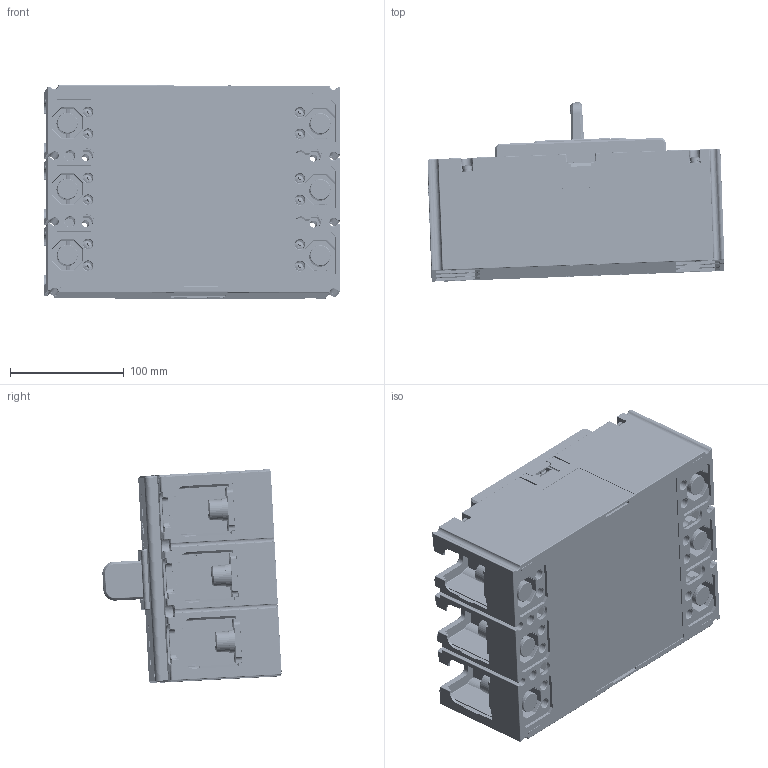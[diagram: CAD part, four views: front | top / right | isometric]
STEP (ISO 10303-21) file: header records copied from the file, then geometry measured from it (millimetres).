
FILE_DESCRIPTION((''),'2;1');
FILE_NAME('2253070100_ASM_ASM','2025-04-28T',('Administrator'),(''),'PRO/ENGINEER BY PARAMETRIC TECHNOLOGY CORPORATION, 2015440','PRO/ENGINEER BY PARAMETRIC TECHNOLOGY CORPORATION, 2015440','');
FILE_SCHEMA(('CONFIG_CONTROL_DESIGN'));
Products named in the file (48): JZ_5024045900_1; GB_T809-M5X16_1; 5024045900_ASM_1_ASM; 89400070R0_1; MANIFOLD_SOLID_BREP_104462; MANIFOLD_SOLID_BREP_104602; 8420023100_1_ASM; 5551107800_ASM_1_ASM; 5551150300_ASM_1_ASM; 8551044700_1; 5551107700_ASM_1_ASM; 7010100507J_GB_T823_M4X12_1; 7090300401K_GB_T93_4_1; 7090200011_GB_T97_4_4_S_1; 5850007600_ASM_1_ASM; 7030100031_GB_T9074_4-M5X8_1; 7010100505J_GB_T823_M4X10_1; 5850007500_ASM_1_ASM; 7030100002_GB_T9074_4_M5X45_R_1; 5295021400_ASM_1_ASM; 8742124100_1; 8742124000_1; GB_T70_1-M12X30_1; GB_T9074_26-12_1; GB_T97_4_12_1; 58500025C0_ASM_1_ASM; GZ_5315081600_1; GB_T809-M3X8_1; 5315081600_ASM_1_ASM; 82822012R0_AF0_1; 8253076500_1; 5315081800_ASM_1_ASM; 8253057400_1; 8865077500_AF0_1; 8865077600_AF0_1; 5253021200_ASM_1_ASM; 8315098700_1; GB_T823-M5X35_1; 7090300501K_GB_T93_5_1; GB_T97_4_5_1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
Assembly tree (111 placements, depth 7):
  2253070100_ASM_ASM
    2253070100_ASM_1_ASM
      5295021400_ASM_1_ASM
        5024045900_ASM_1_ASM
          JZ_5024045900_1
          GB_T809-M5X16_1  x8
        89400070R0_1  x6
        5551150300_ASM_1_ASM
          5551107800_ASM_1_ASM  x3
            8420023100_1_ASM
              MANIFOLD_SOLID_BREP_104462
              MANIFOLD_SOLID_BREP_104602
        5551107700_ASM_1_ASM  x3
          8551044700_1
        5850007600_ASM_1_ASM  x12
          7010100507J_GB_T823_M4X12_1
          7090300401K_GB_T93_4_1
          7090200011_GB_T97_4_4_S_1
        7030100031_GB_T9074_4-M5X8_1  x3
        5850007500_ASM_1_ASM  x3
          7010100505J_GB_T823_M4X10_1
          7090300401K_GB_T93_4_1
          7090200011_GB_T97_4_4_S_1
        7030100002_GB_T9074_4_M5X45_R_1  x4
      8742124100_1  x3
      8742124000_1  x3
      58500025C0_ASM_1_ASM  x6
        GB_T70_1-M12X30_1
        GB_T9074_26-12_1
        GB_T97_4_12_1
      5315081800_ASM_1_ASM
        5315081600_ASM_1_ASM
          GZ_5315081600_1
          GB_T809-M3X8_1  x7
        82822012R0_AF0_1
        8253076500_1
      5253021200_ASM_1_ASM
        8253057400_1
        8865077500_AF0_1
        8865077600_AF0_1
      8315098700_1
      5850007400_ASM_1_ASM  x8
        GB_T823-M5X35_1
        7090300501K_GB_T93_5_1
        GB_T97_4_5_1
      5850007700_ASM_1_ASM  x7
        7010100305R01_GB_T823_M3X10_1
        7090300201_GB_T93_3_1
        GB_T97_4_3_1
      8742123800_1
Bounding box: 260.33 x 157.14 x 187.46 mm (x, y, z)
Volume: 1777799.5 mm3; surface area: 846533.9 mm2
Topology: 160 solids, 237 shells, 9187 faces, 23994 edges, 15374 vertices
Faces by surface type: plane 5271, cylinder 2587, torus 486, cone 315, extrusion 213, sphere 184, bspline 131
Entity records: 233533 total; most frequent: CARTESIAN_POINT 55733, ORIENTED_EDGE 37502, DIRECTION 35978, EDGE_CURVE 18783, VECTOR 13244, LINE 13031, VERTEX_POINT 12152, AXIS2_PLACEMENT_3D 11367
